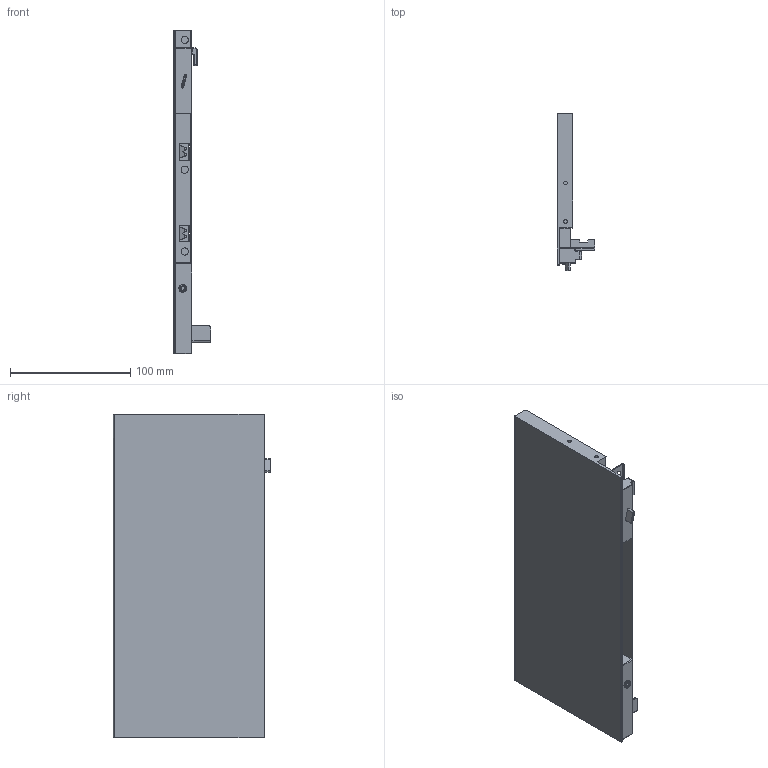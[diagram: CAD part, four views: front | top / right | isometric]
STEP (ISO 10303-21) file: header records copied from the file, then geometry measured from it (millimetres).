
FILE_DESCRIPTION (( 'STEP AP203' ), '1' );
FILE_NAME ('HT122701-L.STEP', '2022-06-28T08:32:43', ( 'Users' ), ( 'Microsoft' ), 'SwSTEP 2.0', 'SolidWorks 2018', '' );
FILE_SCHEMA (( 'CONFIG_CONTROL_DESIGN' ));
Length unit declared in the file: millimetre
Products named in the file (1): HT122701-L
Bounding box: 31.3 x 131 x 269 mm (x, y, z)
Volume: 368973.8 mm3; surface area: 91354 mm2
Topology: 1 solids, 8 shells, 367 faces, 924 edges, 573 vertices
Faces by surface type: plane 174, cylinder 129, torus 29, bspline 23, cone 6, sphere 6
Entity records: 11463 total; most frequent: CARTESIAN_POINT 2726, ORIENTED_EDGE 1830, DIRECTION 1776, EDGE_CURVE 915, AXIS2_PLACEMENT_3D 607, VERTEX_POINT 573, LINE 562, VECTOR 562
